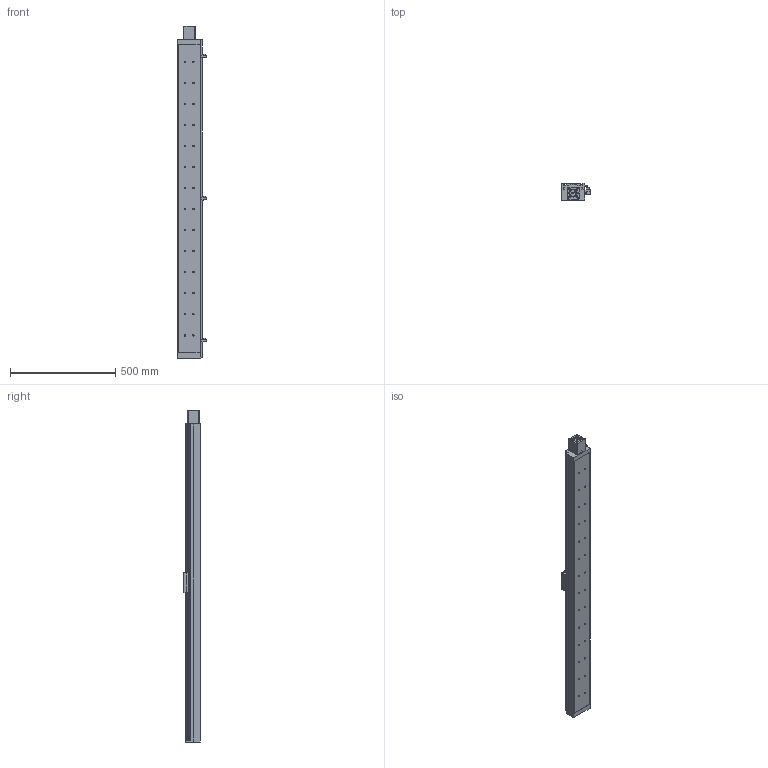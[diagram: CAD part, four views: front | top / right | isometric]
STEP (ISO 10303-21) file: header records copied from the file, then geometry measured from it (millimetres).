
FILE_DESCRIPTION((''),'2;1');
FILE_NAME('E:\libraries\UIA actuator library 2009\standard actuator\UIA110R12(15)DC\UIA110R12(15)DC-ball screw dia.20\UIA110R12(15)DC-_ _ _-R20_ _-M23 step file 20Apr16\UIA110R12(15)DC-1350-R20_ _-M23-P13-C10-S.stp','2016-04-22T13:04:15',('h029'),(''),'Autodesk Inventor 11','Autodesk Inventor 11','');
FILE_SCHEMA(('AUTOMOTIVE_DESIGN { 1 0 10303 214 1 1 1 1 }'));
Length unit declared in the file: millimetre
Products named in the file (10): UIA110R12(15)DC-1350, ball screw dia.20; body, UIA110R12(15)DC-1350,ball screw dia.20; Carriage, UIA110R12(15)DC; Sen Switch, UIA110R12(15)DC; sensor rail, UIA110R12(15)DC-1350; SOH-32C; SOH-32C-3; SOH-32C-1; SOH-32C-2; M23 motor mount
Assembly tree (9 placements, depth 3):
  UIA110R12(15)DC-1350, ball screw dia.20
    body, UIA110R12(15)DC-1350,ball screw dia.20
    Carriage, UIA110R12(15)DC
    Sen Switch, UIA110R12(15)DC
    sensor rail, UIA110R12(15)DC-1350
    SOH-32C
      SOH-32C-3
      SOH-32C-1
      SOH-32C-2
    M23 motor mount
Bounding box: 136.5 x 81 x 1577 mm (x, y, z)
Volume: 11296810.1 mm3; surface area: 832772.1 mm2
Topology: 8 solids, 8 shells, 693 faces, 1800 edges, 1181 vertices
Faces by surface type: plane 435, cylinder 156, bspline 83, cone 19
Full cylindrical faces by diameter (mm): 2.459 x4, 3.242 x4, 4 x6, 4.5 x4, 5.5 x3, 6.35 x1, 6.5 x28, 7.5 x4, 9.5 x6, 10 x2, 10.5 x28, 12 x1, 25 x1, 32 x3, 37 x1, 38.1 x1, 42 x1, 42.01 x1, 43.5 x1
Entity records: 21540 total; most frequent: CARTESIAN_POINT 5331, DIRECTION 3287, ORIENTED_EDGE 3066, EDGE_CURVE 1533, AXIS2_PLACEMENT_3D 1142, VERTEX_POINT 1104, VECTOR 1003, LINE 1003
